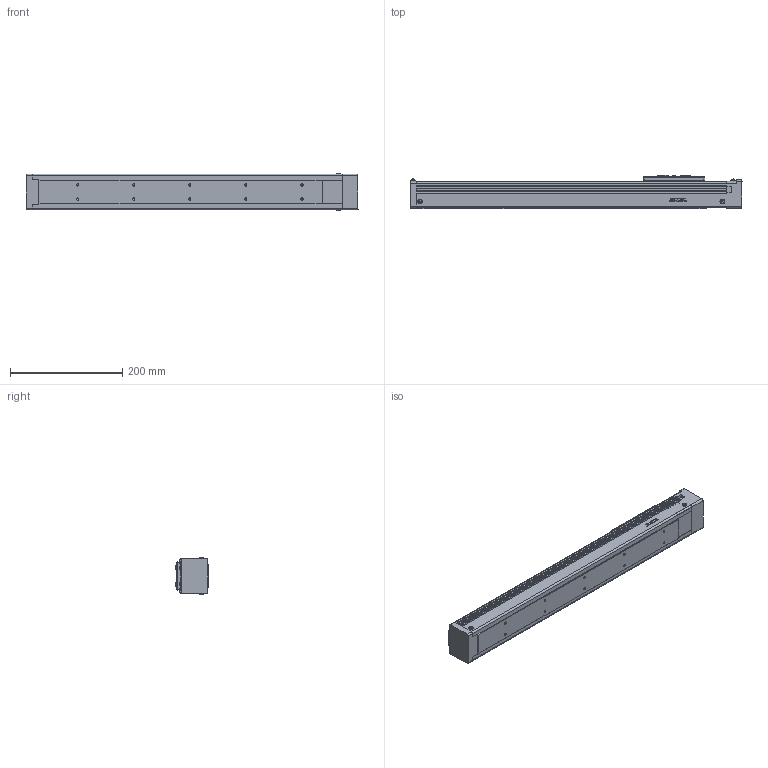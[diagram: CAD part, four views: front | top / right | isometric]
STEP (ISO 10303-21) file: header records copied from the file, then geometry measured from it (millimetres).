
FILE_DESCRIPTION(/* description */ (''),/* implementation_level */ '2;1');
FILE_NAME(/* name */ 'D:\混合母檔20191031\混和母檔\混和母檔\bin\Debug\Download\3D\KE655C-400AF0\KE655C-400AF0.stp',/* time_stamp */ '2019-11-04T13:47:27+08:00',/* author */ ('user'),/* organization */ (''),/* preprocessor_version */ 'ST-DEVELOPER v16.13',/* originating_system */ 'Autodesk Inventor 2018',/* authorisation */ '');
FILE_SCHEMA (('AUTOMOTIVE_DESIGN { 1 0 10303 214 3 1 1 }'));
Length unit declared in the file: millimetre
Products named in the file (3): KE655C-400AF0; KE65-F0-BP; KE65-SL
Assembly tree (2 placements, depth 2):
  KE655C-400AF0
    KE65-F0-BP
    KE65-SL
Bounding box: 592 x 60 x 64.57 mm (x, y, z)
Volume: 1749061.5 mm3; surface area: 193139 mm2
Topology: 2 solids, 17 shells, 1084 faces, 2938 edges, 1926 vertices
Faces by surface type: plane 581, cone 164, cylinder 139, bspline 136, torus 54, sphere 10
Full cylindrical faces by diameter (mm): 2.459 x8, 2.729 x4, 3 x4, 3.242 x8, 3.5 x6, 3.571 x4, 4.134 x10, 4.2 x4, 6 x1, 8 x1, 8.4 x8, 30 x1
Entity records: 39463 total; most frequent: CARTESIAN_POINT 12919, ORIENTED_EDGE 5452, DIRECTION 4914, EDGE_CURVE 2726, VERTEX_POINT 1853, LINE 1652, VECTOR 1652, AXIS2_PLACEMENT_3D 1631
